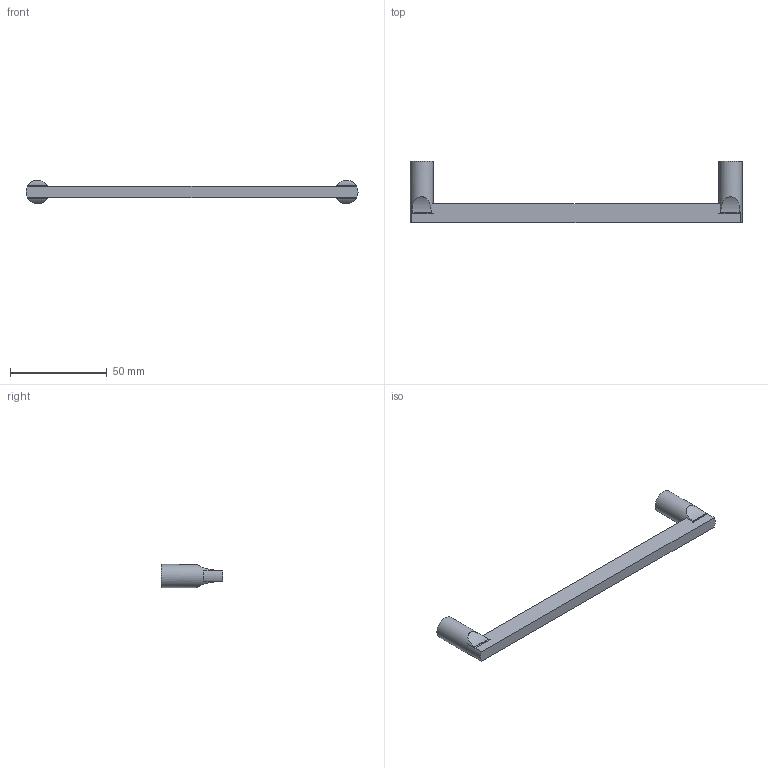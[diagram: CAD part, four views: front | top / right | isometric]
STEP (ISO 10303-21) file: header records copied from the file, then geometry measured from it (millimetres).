
FILE_DESCRIPTION( ( 'STEP AP214' ), '1' );
FILE_NAME( 'C:/Users/kulkarni/Desktop/Apurva/2015/Prodecor_2016/Cadfiles/cabo/9208032.stp', ' ', ( ' ' ), ( ' ' ), 'PSStep 15.0.47', 'PARTsolutions', ' ' );
FILE_SCHEMA( ( 'AUTOMOTIVE_DESIGN { 1 0 10303 214 1 1 1 1 }' ) );
Length unit declared in the file: millimetre
Products named in the file (2): 95 ; _
Assembly tree (1 placements, depth 2):
  95 
    _
Bounding box: 172 x 32 x 11.99 mm (x, y, z)
Volume: 15074.2 mm3; surface area: 7617.2 mm2
Topology: 1 solids, 1 shells, 28 faces, 80 edges, 56 vertices
Faces by surface type: cylinder 17, plane 11
Full cylindrical faces by diameter (mm): 4 x2, 12 x2
Entity records: 1436 total; most frequent: CARTESIAN_POINT 502, ORIENTED_EDGE 148, DIRECTION 120, EDGE_CURVE 74, VERTEX_POINT 54, AXIS2_PLACEMENT_3D 42, LINE 36, VECTOR 36
